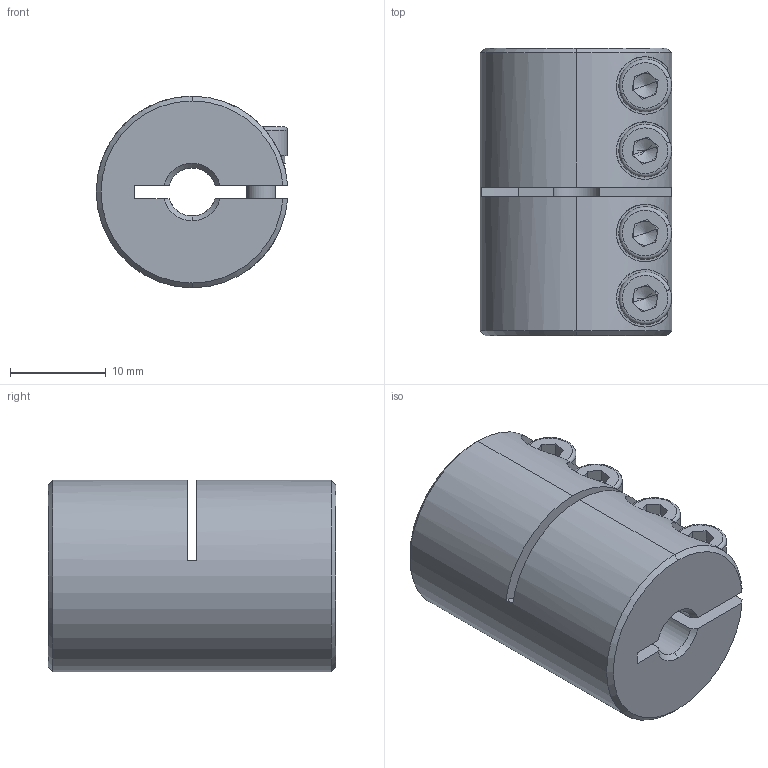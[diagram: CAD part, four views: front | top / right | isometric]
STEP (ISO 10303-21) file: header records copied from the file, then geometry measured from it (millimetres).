
FILE_DESCRIPTION (( 'STEP AP203' ), '1' );
FILE_NAME ('LL-B-D20L30-5-5.STEP', '2021-11-05T03:07:29', ( '' ), ( '' ), 'SwSTEP 2.0', 'SolidWorks 2018', '' );
FILE_SCHEMA (( 'CONFIG_CONTROL_DESIGN' ));
Length unit declared in the file: millimetre
Products named in the file (1): LL-B-D20L30-5-5
Bounding box: 19.98 x 30 x 20 mm (x, y, z)
Volume: 8087.1 mm3; surface area: 4525.9 mm2
Topology: 1 solids, 1 shells, 173 faces, 444 edges, 277 vertices
Faces by surface type: plane 87, cylinder 58, cone 20, torus 8
Entity records: 5650 total; most frequent: CARTESIAN_POINT 1319, DIRECTION 927, ORIENTED_EDGE 872, EDGE_CURVE 436, AXIS2_PLACEMENT_3D 357, VERTEX_POINT 277, LINE 213, VECTOR 213
